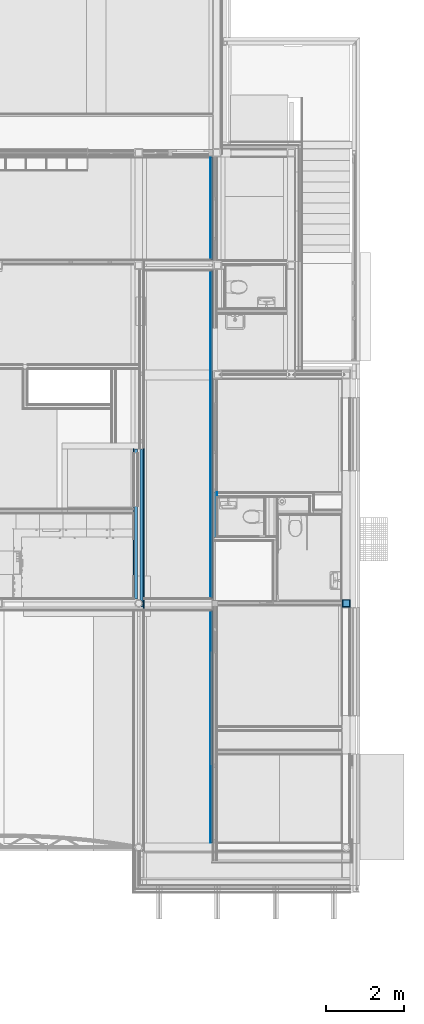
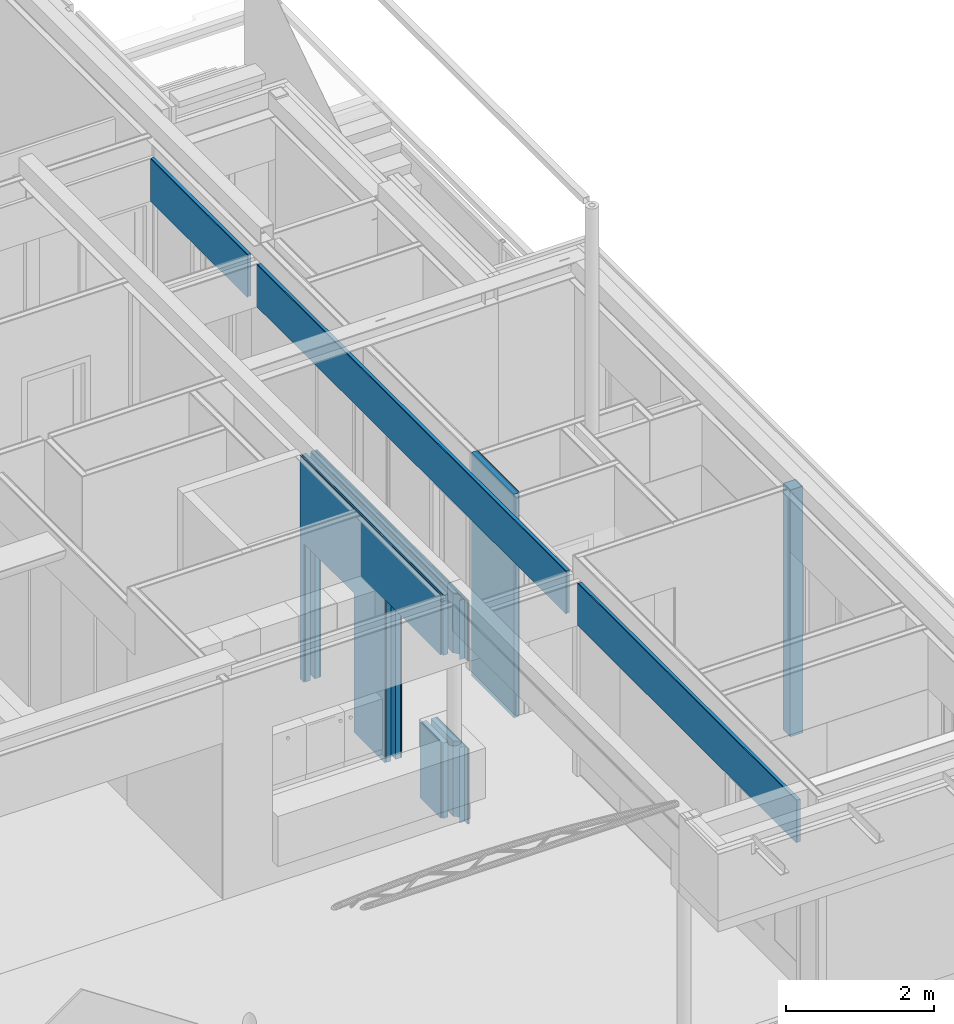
# One storey, part 73 of 165: 11 building element parts, 3 openings, 4 elements without a shape of their own.
"""IFC2X3 building model written with IfcOpenShell, lengths in millimetres."""

from ifc_helpers import new_model, entity, si_unit, converted_unit, derived_unit, money_unit, direction, frame, origin_with_axes, place, context, subcontext, project, spatial, faceted_brep, material, type_object, element, aggregate, save


model = new_model("IFC2X3")

# Units and contexts
model_context = context("Model", 3, precision=0.01, world=origin_with_axes(), true_north=direction((0.0, 1.0)))
body_context = subcontext(model_context, "Body", "Model", "MODEL_VIEW")
ifc_project = project(units=[si_unit("LENGTHUNIT", "METRE", prefix="MILLI"), si_unit("AREAUNIT", "SQUARE_METRE"), si_unit("VOLUMEUNIT", "CUBIC_METRE"), converted_unit("PLANEANGLEUNIT", "DEGREE", entity("IfcPlaneAngleMeasure", 0.0174532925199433), si_unit("PLANEANGLEUNIT", "RADIAN"), dimensions=[0, 0, 0, 0, 0, 0, 0]), money_unit("EUR"), converted_unit("TIMEUNIT", "Year", entity("IfcTimeMeasure", 31556926.0), si_unit("TIMEUNIT", "SECOND"), dimensions=[0, 0, 1, 0, 0, 0, 0]), si_unit("MASSUNIT", "GRAM", prefix="KILO"), si_unit("THERMODYNAMICTEMPERATUREUNIT", "DEGREE_CELSIUS"), si_unit("LUMINOUSINTENSITYUNIT", "LUMEN"), si_unit("ENERGYUNIT", "JOULE", prefix="MEGA"), derived_unit("THERMALCONDUCTANCEUNIT", [(si_unit("POWERUNIT", "WATT"), 1), (si_unit("LENGTHUNIT", "METRE"), -1), (si_unit("THERMODYNAMICTEMPERATUREUNIT", "KELVIN"), -1)]), derived_unit("SPECIFICHEATCAPACITYUNIT", [(si_unit("ENERGYUNIT", "JOULE"), 1), (si_unit("MASSUNIT", "GRAM", prefix="KILO"), -1), (si_unit("THERMODYNAMICTEMPERATUREUNIT", "KELVIN"), -1)]), derived_unit("MASSDENSITYUNIT", [(si_unit("MASSUNIT", "GRAM", prefix="KILO"), 1), (si_unit("VOLUMEUNIT", "CUBIC_METRE"), -1)])], contexts=[model_context])

# Site, building, storey
site_placement = place(None, origin_with_axes())
site = spatial("IfcSite", under=ifc_project, at=site_placement, Name="Site", CompositionType="ELEMENT")
building_placement = place(site_placement, origin_with_axes())
building = spatial("IfcBuilding", under=site, at=building_placement, Name="Naam gebouw", CompositionType="ELEMENT")
storey_placement = place(building_placement, origin_with_axes())
storey = spatial("IfcBuildingStorey", under=building, at=storey_placement, Name="Begane grond", CompositionType="ELEMENT", Elevation=0.0)

# Column, building element parts
column_type = type_object("IfcColumnType", Name="200X200X10 200 x 200", PredefinedType="COLUMN")
column_placement = place(storey_placement, frame((29799.99999999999, 10810.00011055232, -480.0), z_axis=(0.0, 0.0, 1.0), x_axis=(1.0, 0.0, 0.0)))
column = element("IfcColumn", 1, at=column_placement, inside=storey, type_object=column_type, Name="28_Kolom-x", ObjectType="COLUMN")
ifc_material_1 = material(Name="Beton gewapend C")
building_element_part_1_placement = place(column_placement, origin_with_axes())
building_element_part_1 = element("IfcBuildingElementPart", 2, at=building_element_part_1_placement, material=ifc_material_1, Name="Beton gewapend C", context=body_context, shape_type="Brep", body=[
    faceted_brep([(-89.99999999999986, 89.99999999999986, 4063.0), (89.99999999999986, 89.99999999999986, 4063.0), (89.99999999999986, 89.99999999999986, 0.0), (-89.99999999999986, 89.99999999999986, 0.0), (89.99999999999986, -89.99999999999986, 4063.0), (-89.99999999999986, -89.99999999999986, 4063.0), (89.99999999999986, -89.99999999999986, 0.0), (-89.99999999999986, -89.99999999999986, 0.0)], [[[0, 1, 2, 3]], [[4, 1, 0, 5]], [[1, 4, 6, 2]], [[2, 6, 7, 3]], [[5, 0, 3, 7]], [[4, 5, 7, 6]]]),
    faceted_brep([(89.99999999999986, -89.99999999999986, 4074.999999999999), (89.99999999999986, 89.99999999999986, 4074.999999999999), (89.99999999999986, 89.99999999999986, 4079.999999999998), (89.99999999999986, -89.99999999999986, 4079.999999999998), (-89.99999999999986, 89.99999999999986, 4074.999999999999), (-89.99999999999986, -89.99999999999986, 4074.999999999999), (-89.99999999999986, 89.99999999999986, 4079.999999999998), (-89.99999999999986, -89.99999999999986, 4079.999999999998)], [[[0, 1, 2, 3]], [[4, 1, 0, 5]], [[1, 4, 6, 2]], [[2, 6, 7, 3]], [[5, 0, 3, 7]], [[4, 5, 7, 6]]]),
])
ifc_material_2 = material(Name="Metaal - Staal C")
building_element_part_2_placement = place(column_placement, origin_with_axes())
building_element_part_2 = element("IfcBuildingElementPart", 3, at=building_element_part_2_placement, material=ifc_material_2, Name="Metaal - Staal C", context=body_context, shape_type="Brep", body=[
    faceted_brep([(-100.0000000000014, -99.99999999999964, 0.0), (100.0000000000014, -99.99999999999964, 0.0), (100.0000000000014, -99.99999999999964, 4079.999999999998), (-100.0000000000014, -99.99999999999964, 4079.999999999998), (-100.0000000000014, 99.99999999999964, 0.0), (100.0000000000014, 99.99999999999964, 0.0), (-89.99999999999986, -89.99999999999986, 0.0), (89.99999999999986, -89.99999999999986, 0.0), (89.99999999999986, 89.99999999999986, 0.0), (-89.99999999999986, 89.99999999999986, 0.0), (100.0000000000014, 99.99999999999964, 4079.999999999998), (-100.0000000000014, 99.99999999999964, 4079.999999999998), (-89.99999999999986, -89.99999999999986, 4079.999999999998), (-89.99999999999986, 89.99999999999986, 4079.999999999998), (89.99999999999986, 89.99999999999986, 4079.999999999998), (89.99999999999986, -89.99999999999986, 4079.999999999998)], [[[0, 1, 2, 3]], [[0, 4, 5, 1], [6, 7, 8, 9]], [[1, 5, 10, 2]], [[3, 2, 10, 11], [12, 13, 14, 15]], [[4, 0, 3, 11]], [[5, 4, 11, 10]], [[7, 6, 12, 15]], [[8, 7, 15, 14]], [[9, 8, 14, 13]], [[6, 9, 13, 12]]]),
])
aggregate(column, [building_element_part_1, building_element_part_2])

# Proxy, openings, building element parts
building_element_proxy_type_1 = type_object("IfcBuildingElementProxyType", Name="22 Metal stud 270 270", PredefinedType="NOTDEFINED")
proxy_1_placement = place(storey_placement, frame((24499.99903999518, 10619.9988167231, -100.0), z_axis=(0.0, 0.0, 1.0), x_axis=(0.0, 1.0, 0.0)))
proxy_1 = element("IfcBuildingElementProxy", 4, at=proxy_1_placement, inside=storey, type_object=building_element_proxy_type_1, Name="_Wand-x")
opening_1_placement = place(proxy_1_placement, frame((442.5000895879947, 0.0, 1250.0), z_axis=(0.0, 0.0, 1.0), x_axis=(1.0, 0.0, 0.0)))
element("IfcOpeningElement", 5, at=opening_1_placement, cuts=proxy_1, Name="_-", context=body_context, shape_type="Brep", body=[
    faceted_brep([(442.4987957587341, 136.0000000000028, 1450.0), (442.4987957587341, 136.0000000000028, 0.0), (-116.2963858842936, 136.0000000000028, 0.0), (-116.2963858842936, 136.0000000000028, 1450.0), (442.4987957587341, -136.0000000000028, 1450.0), (442.4987957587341, -136.0000000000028, 0.0), (-442.4987957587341, -136.0000000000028, 0.0), (-442.4987957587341, -134.9989251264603, 0.0), (-442.4987957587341, -134.9989251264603, 1450.0), (-442.4987957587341, -136.0000000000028, 1450.0)], [[[0, 1, 2, 3]], [[4, 5, 1, 0]], [[5, 6, 7, 2, 1]], [[2, 7, 8, 3]], [[9, 4, 0, 3, 8]], [[6, 5, 4, 9]], [[6, 9, 8, 7]]]),
])
opening_2_placement = place(proxy_1_placement, frame((3349.49888534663, 0.0, 0.0), z_axis=(0.0, 0.0, 1.0), x_axis=(1.0, 0.0, 0.0)))
element("IfcOpeningElement", 6, at=opening_2_placement, cuts=proxy_1, Name="_-", context=body_context, shape_type="Brep", body=[
    faceted_brep([(680.0000000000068, 136.0000000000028, 2300.0), (680.0000000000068, 136.0000000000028, 0.0), (-680.0000000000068, 136.0000000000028, 0.0), (-680.0000000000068, 136.0000000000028, 2300.0), (680.0000000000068, -136.0000000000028, 2300.0), (680.0000000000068, -136.0000000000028, 0.0), (-680.0000000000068, -136.0000000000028, 0.0), (-680.0000000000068, -136.0000000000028, 2300.0)], [[[0, 1, 2, 3]], [[4, 5, 1, 0]], [[5, 6, 2, 1]], [[6, 7, 3, 2]], [[7, 4, 0, 3]], [[6, 5, 4, 7]]]),
])
opening_3_placement = place(proxy_1_placement, frame((1359.99888534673, 0.0, 0.0), z_axis=(0.0, 0.0, 1.0), x_axis=(1.0, 0.0, 0.0)))
element("IfcOpeningElement", 7, at=opening_3_placement, cuts=proxy_1, Name="_-", context=body_context, shape_type="Brep", body=[
    faceted_brep([(474.9999999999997, 136.0000000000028, 2700.0), (474.9999999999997, 136.0000000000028, 0.0), (-474.9999999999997, 136.0000000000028, 0.0), (-474.9999999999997, 136.0000000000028, 2700.0), (474.9999999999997, -136.0000000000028, 2700.0), (474.9999999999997, -136.0000000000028, 0.0), (-474.9999999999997, -136.0000000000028, 0.0), (-474.9999999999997, -136.0000000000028, 2700.0)], [[[0, 1, 2, 3]], [[4, 5, 1, 0]], [[5, 6, 2, 1]], [[6, 7, 3, 2]], [[7, 4, 0, 3]], [[6, 5, 4, 7]]]),
])
ifc_material_3 = material(Name="Gipsplaat")
building_element_part_3_placement = place(proxy_1_placement, origin_with_axes())
building_element_part_3 = element("IfcBuildingElementPart", 8, at=building_element_part_3_placement, material=ifc_material_3, Name="Gipsplaat", context=body_context, shape_type="Brep", body=[
    faceted_brep([(884.9988853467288, 135.0000193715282, 1250.0), (884.9988853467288, 122.4999999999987, 1250.0), (884.9988853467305, 122.4999999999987, 0.0), (884.9988853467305, 135.0000000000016, 0.0), (324.9999999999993, 122.4999999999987, 1250.0), (325.0000233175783, 135.0000193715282, 1250.0), (324.9999999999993, 122.4999999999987, 0.0), (324.9999999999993, 135.0000000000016, 0.0)], [[[0, 1, 2, 3]], [[4, 1, 0, 5]], [[1, 4, 6, 2]], [[3, 2, 6, 7]], [[5, 0, 3, 7]], [[4, 5, 7, 6]]]),
    faceted_brep([(324.9999999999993, 122.4999999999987, 2700.0), (884.9988853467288, 122.4999999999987, 2700.0), (1834.99888534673, 122.4999999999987, 2700.0), (1834.99888534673, 122.4999999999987, 0.0), (2669.498885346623, 122.4999999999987, 0.0), (2669.498885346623, 122.4999999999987, 2300.0), (4029.498885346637, 122.4999999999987, 2300.0), (4029.498885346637, 122.4999999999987, 0.0), (4139.998885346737, 122.4999999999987, 0.0), (4139.998885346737, 122.4999999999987, 3680.000029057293), (324.9999999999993, 122.4999999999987, 3680.000029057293), (884.9988853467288, 135.0000193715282, 2700.0), (325.0000233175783, 135.0000193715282, 2700.0), (1834.99888534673, 135.0000000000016, 2700.0), (1834.99888534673, 135.0000000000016, 0.0), (2669.498885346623, 135.0000000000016, 0.0), (2669.498885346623, 135.0000000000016, 2300.0), (4029.498885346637, 135.0000000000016, 2300.0), (4029.498885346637, 135.0000000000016, 0.0), (4139.998885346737, 135.0000000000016, 0.0), (4139.998885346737, 135.0000000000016, 3680.000029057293), (324.9999999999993, 135.0000000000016, 3680.000029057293)], [[[0, 1, 2, 3, 4, 5, 6, 7, 8, 9, 10]], [[11, 1, 0, 12]], [[1, 11, 13, 2]], [[3, 2, 13, 14]], [[14, 15, 4, 3]], [[16, 5, 4, 15]], [[17, 6, 5, 16]], [[18, 7, 6, 17]], [[8, 7, 18, 19]], [[9, 8, 19, 20]], [[9, 20, 21, 10]], [[12, 0, 10, 21]], [[11, 12, 21, 20, 19, 18, 17, 16, 15, 14, 13]]]),
    faceted_brep([(324.9999999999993, 122.4999999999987, 3695.000029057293), (4139.998885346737, 122.4999999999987, 3695.000029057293), (4139.998885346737, 122.4999999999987, 3700.0), (324.9999999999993, 122.4999999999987, 3700.0), (4139.998885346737, 135.0000000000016, 3695.000029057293), (324.9999999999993, 135.0000000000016, 3695.000029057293), (4139.998885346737, 135.0000000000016, 3700.0), (324.9999999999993, 135.0000000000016, 3700.0)], [[[0, 1, 2, 3]], [[4, 1, 0, 5]], [[1, 4, 6, 2]], [[3, 2, 6, 7]], [[5, 0, 3, 7]], [[4, 5, 7, 6]]]),
])
ifc_material_4 = material(Name="ALG - LICHTE SCHEIDINGSWAND")
building_element_part_4_placement = place(proxy_1_placement, origin_with_axes())
building_element_part_4 = element("IfcBuildingElementPart", 9, at=building_element_part_4_placement, material=ifc_material_4, Name="ALG - LICHTE SCHEIDINGSWAND", context=body_context, shape_type="Brep", body=[
    faceted_brep([(884.9988853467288, 109.9999999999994, 1250.0), (884.9988853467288, 35.00000000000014, 1250.0), (884.9988853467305, 35.00000000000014, 0.0), (884.9988853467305, 109.9999999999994, 0.0), (300.0000000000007, 35.00000000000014, 1250.0), (300.0000000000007, 109.9999999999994, 1250.0), (300.0000000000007, 35.00000000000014, 0.0), (300.0000000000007, 109.9999999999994, 0.0)], [[[0, 1, 2, 3]], [[4, 1, 0, 5]], [[1, 4, 6, 2]], [[3, 2, 6, 7]], [[5, 0, 3, 7]], [[4, 5, 7, 6]]]),
    faceted_brep([(300.0000000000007, 35.00000000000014, 2700.0), (884.9988853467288, 35.00000000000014, 2700.0), (1834.99888534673, 35.00000000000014, 2700.0), (1834.99888534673, 35.00000000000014, 0.0), (2669.498885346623, 35.00000000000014, 0.0), (2669.498885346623, 35.00000000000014, 2300.0), (4029.498885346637, 35.00000000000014, 2300.0), (4029.498885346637, 35.00000000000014, 0.0), (4139.998885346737, 35.00000000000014, 0.0), (4139.998885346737, 35.00000000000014, 3680.000029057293), (300.0000000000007, 35.00000000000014, 3680.000029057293), (884.9988853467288, 109.9999999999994, 2700.0), (300.0000000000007, 109.9999999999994, 2700.0), (1834.99888534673, 109.9999999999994, 2700.0), (1834.99888534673, 109.9999999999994, 0.0), (2669.498885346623, 109.9999999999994, 0.0), (2669.498885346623, 109.9999999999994, 2300.0), (4029.498885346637, 109.9999999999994, 2300.0), (4029.498885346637, 109.9999999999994, 0.0), (4139.998885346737, 109.9999999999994, 0.0), (4139.998885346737, 109.9999999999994, 3680.000029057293), (300.0000000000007, 109.9999999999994, 3680.000029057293)], [[[0, 1, 2, 3, 4, 5, 6, 7, 8, 9, 10]], [[11, 1, 0, 12]], [[1, 11, 13, 2]], [[3, 2, 13, 14]], [[14, 15, 4, 3]], [[16, 5, 4, 15]], [[17, 6, 5, 16]], [[18, 7, 6, 17]], [[8, 7, 18, 19]], [[9, 8, 19, 20]], [[9, 20, 21, 10]], [[12, 0, 10, 21]], [[11, 12, 21, 20, 19, 18, 17, 16, 15, 14, 13]]]),
    faceted_brep([(300.0000000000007, 100.9999999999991, 3700.0), (4139.998885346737, 100.9999999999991, 3700.0), (4139.998885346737, 109.9999999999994, 3700.0), (300.0000000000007, 109.9999999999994, 3700.0), (4139.998885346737, 100.9999999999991, 3695.000029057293), (300.0000000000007, 100.9999999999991, 3695.000029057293), (4139.998885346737, 109.9999999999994, 3695.000029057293), (300.0000000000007, 109.9999999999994, 3695.000029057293)], [[[0, 1, 2, 3]], [[4, 1, 0, 5]], [[4, 6, 2, 1]], [[6, 7, 3, 2]], [[5, 0, 3, 7]], [[6, 4, 5, 7]]]),
    faceted_brep([(300.0000000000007, 35.00000000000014, 3695.000029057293), (4139.998885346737, 35.00000000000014, 3695.000029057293), (4139.998885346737, 35.00000000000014, 3700.0), (300.0000000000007, 35.00000000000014, 3700.0), (4139.998885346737, 94.99999999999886, 3695.000029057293), (300.0000000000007, 94.99999999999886, 3695.000029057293), (4139.998885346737, 94.99999999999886, 3700.0), (300.0000000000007, 94.99999999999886, 3700.0)], [[[0, 1, 2, 3]], [[4, 1, 0, 5]], [[4, 6, 2, 1]], [[6, 7, 3, 2]], [[5, 0, 3, 7]], [[7, 6, 4, 5]]]),
])
building_element_part_5_placement = place(proxy_1_placement, origin_with_axes())
building_element_part_5 = element("IfcBuildingElementPart", 10, at=building_element_part_5_placement, material=ifc_material_4, Name="ALG - LICHTE SCHEIDINGSWAND", context=body_context, shape_type="Brep", body=[
    faceted_brep([(884.9988853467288, -35.00000000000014, 1250.0), (884.9988853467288, -109.9999999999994, 1250.0), (884.9988853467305, -109.9999999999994, 0.0), (884.9988853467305, -35.00000000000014, 0.0), (99.99999999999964, -109.9999999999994, 1250.0), (279.6356835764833, -35.00000000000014, 1250.0), (278.0991525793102, -40.23294400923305, 1250.0), (263.195640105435, -63.42326208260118, 1250.0), (242.3623569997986, -81.47540465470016, 1250.0), (217.2870919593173, -92.92689449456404, 1250.0), (190.0012938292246, -96.84999999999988, 1250.0), (162.7154956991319, -92.92689449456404, 1250.0), (137.6402306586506, -81.47540465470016, 1250.0), (116.8069475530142, -63.42326208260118, 1250.0), (106.1390930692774, -46.82363113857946, 1250.0), (100.0003657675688, -51.92351719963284, 1250.0), (99.99999999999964, -109.9999999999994, 0.0), (242.3623569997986, -81.47540465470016, 0.0), (263.195640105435, -63.42326208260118, 0.0), (278.0991525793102, -40.23294400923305, 0.0), (279.6356835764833, -35.00000000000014, 0.0), (99.99999999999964, -35.00000000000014, 0.0), (100.3669040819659, -35.00000000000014, 0.0), (101.903435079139, -40.23294400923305, 0.0), (116.8069475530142, -63.42326208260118, 0.0), (137.6402306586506, -81.47540465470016, 0.0), (162.7154956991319, -92.92689449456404, 0.0), (190.0012938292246, -96.84999999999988, 0.0), (217.2870919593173, -92.92689449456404, 0.0), (101.903435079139, -40.23294400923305, 1250.0), (100.3669040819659, -35.00000000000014, 1250.0), (99.99999999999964, -35.00000000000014, 1250.0)], [[[0, 1, 2, 3]], [[4, 1, 0, 5, 6, 7, 8, 9, 10, 11, 12, 13, 14, 15]], [[1, 4, 16, 2]], [[17, 18, 19, 20, 3, 2, 16, 21, 22, 23, 24, 25, 26, 27, 28]], [[5, 0, 3, 20]], [[6, 5, 20, 19]], [[7, 6, 19, 18]], [[8, 7, 18, 17]], [[9, 8, 17, 28]], [[10, 9, 28, 27]], [[11, 10, 27, 26]], [[12, 11, 26, 25]], [[13, 12, 25, 24]], [[14, 13, 24, 23, 29]], [[15, 14, 29, 30, 31]], [[4, 15, 31, 21, 16]], [[31, 30, 22, 21]], [[30, 29, 23, 22]]]),
    faceted_brep([(99.99999999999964, -109.9999999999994, 2700.0), (884.9988853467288, -109.9999999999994, 2700.0), (1834.99888534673, -109.9999999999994, 2700.0), (1834.99888534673, -109.9999999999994, 0.0), (2669.498885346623, -109.9999999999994, 0.0), (2669.498885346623, -109.9999999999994, 2300.0), (4029.498885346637, -109.9999999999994, 2300.0), (4029.498885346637, -109.9999999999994, 0.0), (4139.998885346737, -109.9999999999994, 0.0), (4139.998885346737, -109.9999999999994, 3680.000029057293), (99.99999999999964, -109.9999999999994, 3680.0), (884.9988853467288, -35.00000000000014, 2700.0), (100.0003657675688, -51.92351719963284, 2700.0), (106.1390930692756, -46.82363113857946, 2700.0), (116.8069475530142, -63.42326208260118, 2700.0), (137.6402306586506, -81.47540465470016, 2700.0), (162.7154956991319, -92.92689449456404, 2700.0), (190.0012938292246, -96.84999999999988, 2700.0), (217.2870919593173, -92.92689449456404, 2700.0), (242.3623569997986, -81.47540465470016, 2700.0), (263.195640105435, -63.42326208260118, 2700.0), (278.0991525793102, -40.23294400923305, 2700.0), (279.6356835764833, -35.00000000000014, 2700.0), (1834.99888534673, -35.00000000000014, 2700.0), (1834.99888534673, -35.00000000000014, 0.0), (2669.498885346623, -35.00000000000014, 0.0), (2669.498885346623, -35.00000000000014, 2300.0), (4029.498885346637, -35.00000000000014, 2300.0), (4029.498885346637, -35.00000000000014, 0.0), (4139.998885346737, -35.00000000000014, 0.0), (4139.998885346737, -35.00000000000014, 3680.000029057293), (99.99999999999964, -35.00000000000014, 3680.0), (279.6356835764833, -35.00000000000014, 3680.000001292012), (278.0991525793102, -40.23294400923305, 3680.000029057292), (263.195640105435, -63.42326208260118, 3680.000029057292), (242.3623569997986, -81.47540465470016, 3680.000029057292), (217.2870919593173, -92.92689449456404, 3680.000029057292), (190.0012938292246, -96.84999999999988, 3680.000029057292), (162.7154956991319, -92.92689449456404, 3680.000029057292), (137.6402306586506, -81.47540465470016, 3680.000029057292), (116.8069475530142, -63.42326208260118, 3680.000029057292), (101.903435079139, -40.23294400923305, 3680.000029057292), (100.3669040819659, -35.00000000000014, 3680.000000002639), (99.99999999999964, -35.00000000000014, 2700.0), (100.3669040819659, -35.00000000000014, 2700.0), (101.903435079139, -40.23294400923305, 2700.0)], [[[0, 1, 2, 3, 4, 5, 6, 7, 8, 9, 10]], [[11, 1, 0, 12, 13, 14, 15, 16, 17, 18, 19, 20, 21, 22]], [[1, 11, 23, 2]], [[3, 2, 23, 24]], [[24, 25, 4, 3]], [[26, 5, 4, 25]], [[27, 6, 5, 26]], [[28, 7, 6, 27]], [[8, 7, 28, 29]], [[30, 9, 8, 29]], [[31, 10, 9, 30, 32, 33, 34, 35, 36, 37, 38, 39, 40, 41, 42]], [[12, 0, 10, 31, 43]], [[13, 12, 43, 44, 45]], [[14, 13, 45, 41, 40]], [[15, 14, 40, 39]], [[16, 15, 39, 38]], [[17, 16, 38, 37]], [[18, 17, 37, 36]], [[19, 18, 36, 35]], [[20, 19, 35, 34]], [[21, 20, 34, 33]], [[22, 21, 33, 32]], [[11, 22, 32, 30, 29, 28, 27, 26, 25, 24, 23]], [[45, 44, 42, 41]], [[44, 43, 31, 42]]]),
    faceted_brep([(177.1342612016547, -95.00000000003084, 3695.00000055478), (177.1342612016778, -95.00000000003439, 3699.999999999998), (99.99999999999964, -95.00000000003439, 3700.0), (99.99999999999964, -95.00000000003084, 3695.0), (162.7154956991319, -92.92689449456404, 3699.999999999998), (162.7154956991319, -92.92689449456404, 3695.000029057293), (101.903435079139, -40.23294400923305, 3699.999999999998), (100.3669040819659, -35.00000000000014, 3699.999999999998), (99.99999999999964, -35.00000000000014, 3700.0), (137.6402306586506, -81.47540465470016, 3699.999999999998), (116.8069475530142, -63.42326208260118, 3699.999999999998), (99.99999999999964, -35.00000000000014, 3695.0), (100.3669040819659, -35.00000000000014, 3695.000000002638), (101.903435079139, -40.23294400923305, 3695.000029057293), (116.8069475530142, -63.42326208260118, 3695.000029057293), (137.6402306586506, -81.47540465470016, 3695.000029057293)], [[[0, 1, 2, 3]], [[4, 1, 0, 5]], [[6, 7, 8, 2, 1, 4, 9, 10]], [[11, 3, 2, 8]], [[5, 0, 3, 11, 12, 13, 14, 15]], [[9, 4, 5, 15]], [[7, 6, 13, 12]], [[7, 12, 11, 8]], [[10, 9, 15, 14]], [[6, 10, 14, 13]]]),
    faceted_brep([(242.3623569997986, -81.47540465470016, 3699.999999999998), (217.2870919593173, -92.92689449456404, 3699.999999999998), (202.8683264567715, -95.00000000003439, 3699.999999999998), (4139.998885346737, -95.00000000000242, 3700.0), (4139.998885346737, -35.00000000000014, 3700.0), (279.6356835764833, -35.00000000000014, 3699.999999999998), (278.0991525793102, -40.23294400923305, 3699.999999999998), (263.195640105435, -63.42326208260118, 3699.999999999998), (242.3623569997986, -81.47540465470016, 3695.000029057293), (217.2870919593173, -92.92689449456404, 3695.000029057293), (202.8683264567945, -95.00000000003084, 3695.00000073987), (4139.998885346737, -95.00000000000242, 3695.000029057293), (4139.998885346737, -35.00000000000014, 3695.000029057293), (279.6356835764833, -35.00000000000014, 3695.000001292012), (278.0991525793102, -40.23294400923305, 3695.000029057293), (263.195640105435, -63.42326208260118, 3695.000029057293)], [[[0, 1, 2, 3, 4, 5, 6, 7]], [[1, 0, 8, 9]], [[10, 2, 1, 9]], [[2, 10, 11, 3]], [[3, 11, 12, 4]], [[13, 5, 4, 12]], [[6, 5, 13, 14]], [[7, 6, 14, 15]], [[0, 7, 15, 8]], [[14, 13, 12, 11, 10, 9, 8, 15]]]),
    faceted_brep([(4139.998885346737, -109.9999999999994, 3695.000029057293), (4139.998885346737, -109.9999999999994, 3700.0), (99.99999999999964, -109.9999999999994, 3700.0), (99.99999999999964, -109.9999999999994, 3695.0), (4139.998885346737, -101.0000000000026, 3695.000029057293), (4139.998885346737, -101.0000000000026, 3700.0), (99.99999999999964, -101.0000000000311, 3700.0), (99.99999999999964, -101.0000000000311, 3695.0)], [[[0, 1, 2, 3]], [[4, 5, 1, 0]], [[5, 6, 2, 1]], [[7, 3, 2, 6]], [[4, 0, 3, 7]], [[5, 4, 7, 6]]]),
])
building_element_part_6_placement = place(proxy_1_placement, origin_with_axes())
building_element_part_6 = element("IfcBuildingElementPart", 11, at=building_element_part_6_placement, material=ifc_material_3, Name="Gipsplaat", context=body_context, shape_type="Brep", body=[
    faceted_brep([(884.9988853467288, -122.4999999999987, 1250.0), (884.9988853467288, -135.0000000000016, 1250.0), (884.9988853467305, -135.0000000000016, 0.0), (884.9988853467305, -122.4999999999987, 0.0), (12.49999999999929, -135.0000000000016, 1250.0), (15.04680016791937, -122.5006065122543, 1250.0), (12.50050801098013, -124.6159961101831, 1250.0), (12.49999999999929, -135.0000000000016, 0.0), (12.49999999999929, -122.4999999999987, 0.0), (12.49999999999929, -122.4999999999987, 1250.0)], [[[0, 1, 2, 3]], [[4, 1, 0, 5, 6]], [[1, 4, 7, 2]], [[3, 2, 7, 8]], [[5, 0, 3, 8, 9]], [[6, 5, 9]], [[4, 6, 9, 8, 7]]]),
    faceted_brep([(12.49999999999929, -135.0000000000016, 2700.0), (884.9988853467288, -135.0000000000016, 2700.0), (1834.99888534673, -135.0000000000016, 2700.0), (1834.99888534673, -135.0000000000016, 0.0), (2669.498885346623, -135.0000000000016, 0.0), (2669.498885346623, -135.0000000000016, 2300.0), (4029.498885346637, -135.0000000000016, 2300.0), (4029.498885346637, -135.0000000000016, 0.0), (4139.998885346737, -135.0000000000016, 0.0), (4139.998885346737, -135.0000000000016, 3680.000029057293), (12.49999999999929, -135.0000000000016, 3680.0), (884.9988853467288, -122.4999999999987, 2700.0), (12.50050801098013, -124.6159961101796, 2700.0), (15.04680016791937, -122.5006065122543, 2700.0), (1834.99888534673, -122.4999999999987, 2700.0), (1834.99888534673, -122.4999999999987, 0.0), (2669.498885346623, -122.4999999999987, 0.0), (2669.498885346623, -122.4999999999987, 2300.0), (4029.498885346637, -122.4999999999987, 2300.0), (4029.498885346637, -122.4999999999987, 0.0), (4139.998885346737, -122.4999999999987, 0.0), (4139.998885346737, -122.4999999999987, 3680.000029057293), (12.49999999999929, -122.4999999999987, 3680.0), (12.49999999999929, -122.4999999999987, 2700.0)], [[[0, 1, 2, 3, 4, 5, 6, 7, 8, 9, 10]], [[11, 1, 0, 12, 13]], [[1, 11, 14, 2]], [[3, 2, 14, 15]], [[15, 16, 4, 3]], [[17, 5, 4, 16]], [[18, 6, 5, 17]], [[19, 7, 6, 18]], [[8, 7, 19, 20]], [[9, 8, 20, 21]], [[21, 22, 10, 9]], [[12, 0, 10, 22, 23]], [[13, 12, 23]], [[11, 13, 23, 22, 21, 20, 19, 18, 17, 16, 15, 14]]]),
    faceted_brep([(4139.998885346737, -135.0000000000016, 3695.000029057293), (4139.998885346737, -135.0000000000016, 3700.0), (12.49999999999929, -135.0000000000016, 3700.0), (12.49999999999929, -135.0000000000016, 3695.0), (4139.998885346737, -122.4999999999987, 3695.000029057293), (4139.998885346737, -122.4999999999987, 3700.0), (12.49999999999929, -122.4999999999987, 3700.0), (12.49999999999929, -122.4999999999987, 3695.0)], [[[0, 1, 2, 3]], [[0, 4, 5, 1]], [[2, 1, 5, 6]], [[7, 3, 2, 6]], [[4, 0, 3, 7]], [[4, 7, 6, 5]]]),
])
building_element_part_7_placement = place(proxy_1_placement, origin_with_axes())
building_element_part_7 = element("IfcBuildingElementPart", 12, at=building_element_part_7_placement, material=ifc_material_3, Name="Gipsplaat", context=body_context, shape_type="Brep", body=[
    faceted_brep([(884.9988853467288, -109.9999999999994, 1250.0), (884.9988853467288, -122.4999999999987, 1250.0), (884.9988853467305, -122.4999999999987, 0.0), (884.9988853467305, -109.9999999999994, 0.0), (25.00000000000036, -122.4999999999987, 1250.0), (30.0930720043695, -110.0005770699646, 1250.0), (25.00048769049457, -114.2313562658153, 1250.0), (25.00000000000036, -122.4999999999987, 0.0), (25.00000000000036, -109.9999999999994, 0.0), (25.00000000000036, -109.9999999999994, 1250.0)], [[[0, 1, 2, 3]], [[4, 1, 0, 5, 6]], [[1, 4, 7, 2]], [[3, 2, 7, 8]], [[5, 0, 3, 8, 9]], [[6, 5, 9]], [[4, 6, 9, 8, 7]]]),
    faceted_brep([(25.00000000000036, -122.4999999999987, 2700.0), (884.9988853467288, -122.4999999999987, 2700.0), (1834.99888534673, -122.4999999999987, 2700.0), (1834.99888534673, -122.4999999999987, 0.0), (2669.498885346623, -122.4999999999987, 0.0), (2669.498885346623, -122.4999999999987, 2300.0), (4029.498885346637, -122.4999999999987, 2300.0), (4029.498885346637, -122.4999999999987, 0.0), (4139.998885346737, -122.4999999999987, 0.0), (4139.998885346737, -122.4999999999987, 3680.000029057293), (25.00000000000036, -122.4999999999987, 3680.0), (884.9988853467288, -109.9999999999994, 2700.0), (25.00048769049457, -114.2313562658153, 2700.0), (30.09307200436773, -110.0005770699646, 2700.0), (1834.99888534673, -109.9999999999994, 2700.0), (1834.99888534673, -109.9999999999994, 0.0), (2669.498885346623, -109.9999999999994, 0.0), (2669.498885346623, -109.9999999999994, 2300.0), (4029.498885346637, -109.9999999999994, 2300.0), (4029.498885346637, -109.9999999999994, 0.0), (4139.998885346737, -109.9999999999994, 0.0), (4139.998885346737, -109.9999999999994, 3680.000029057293), (25.00000000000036, -109.9999999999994, 3680.0), (25.00000000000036, -109.9999999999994, 2700.0)], [[[0, 1, 2, 3, 4, 5, 6, 7, 8, 9, 10]], [[11, 1, 0, 12, 13]], [[1, 11, 14, 2]], [[3, 2, 14, 15]], [[15, 16, 4, 3]], [[17, 5, 4, 16]], [[18, 6, 5, 17]], [[19, 7, 6, 18]], [[8, 7, 19, 20]], [[9, 8, 20, 21]], [[21, 22, 10, 9]], [[12, 0, 10, 22, 23]], [[13, 12, 23]], [[11, 13, 23, 22, 21, 20, 19, 18, 17, 16, 15, 14]]]),
    faceted_brep([(4139.998885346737, -122.4999999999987, 3695.000029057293), (4139.998885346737, -122.4999999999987, 3700.0), (25.00000000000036, -122.4999999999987, 3700.0), (25.00000000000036, -122.4999999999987, 3695.0), (4139.998885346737, -109.9999999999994, 3695.000029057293), (4139.998885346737, -109.9999999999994, 3700.0), (25.00000000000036, -109.9999999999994, 3700.0), (25.00000000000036, -109.9999999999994, 3695.0)], [[[0, 1, 2, 3]], [[0, 4, 5, 1]], [[2, 1, 5, 6]], [[7, 3, 2, 6]], [[4, 0, 3, 7]], [[4, 7, 6, 5]]]),
])
aggregate(proxy_1, [building_element_part_3, building_element_part_4, building_element_part_5, building_element_part_6, building_element_part_7])

# Proxy, building element parts
building_element_proxy_type_2 = type_object("IfcBuildingElementProxyType", Name="22 Metal stud 62.5 plafond 63", PredefinedType="NOTDEFINED")
proxy_2_placement = place(storey_placement, frame((26323.50000000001, 22199.97621406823, 2600.0), z_axis=(0.0, 0.0, 1.0), x_axis=(0.0, -1.0, 0.0)))
proxy_2 = element("IfcBuildingElementProxy", 13, at=proxy_2_placement, inside=storey, type_object=building_element_proxy_type_2, Name="_Wand-x")
building_element_part_8_placement = place(proxy_2_placement, origin_with_axes())
building_element_part_8 = element("IfcBuildingElementPart", 14, at=building_element_part_8_placement, material=ifc_material_3, Name="Gipsplaat", context=body_context, shape_type="Brep", body=[
    faceted_brep([(2627.476402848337, 0.0, 0.0), (0.0, 0.0, 0.0), (0.0, 12.49999999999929, 0.0), (2627.476402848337, 12.49999999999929, 0.0), (2627.476402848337, 0.0, 700.0000000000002), (0.0, 0.0, 700.0000000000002), (0.0, 12.49999999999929, 700.0000000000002), (2627.476402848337, 12.49999999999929, 700.0000000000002)], [[[0, 1, 2, 3]], [[4, 5, 1, 0]], [[2, 1, 5, 6]], [[3, 2, 6, 7]], [[3, 7, 4, 0]], [[7, 6, 5, 4]]]),
    faceted_brep([(11267.47610351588, 0.0, 0.0), (2872.476402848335, 0.0, 0.0), (2872.476402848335, 12.49999999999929, 0.0), (11267.47610351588, 12.49999999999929, 0.0), (11267.47610351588, 0.0, 700.0000000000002), (2872.476402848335, 0.0, 700.0000000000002), (2872.476402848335, 12.49999999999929, 700.0000000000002), (11267.47610351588, 12.49999999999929, 700.0000000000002)], [[[0, 1, 2, 3]], [[4, 5, 1, 0]], [[2, 1, 5, 6]], [[3, 2, 6, 7]], [[3, 7, 4, 0]], [[7, 6, 5, 4]]]),
    faceted_brep([(17505.97621406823, 12.49999999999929, 0.0), (17505.97621406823, 0.0, 0.0), (11567.47610351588, 0.0, 0.0), (11567.47610351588, 12.49999999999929, 0.0), (17505.97621406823, 12.49999999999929, 700.0000000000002), (17505.97621406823, 0.0, 700.0000000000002), (11567.47610351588, 0.0, 700.0000000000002), (11567.47610351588, 12.49999999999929, 700.0000000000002)], [[[0, 1, 2, 3]], [[0, 4, 5, 1]], [[1, 5, 6, 2]], [[3, 2, 6, 7]], [[4, 0, 3, 7]], [[5, 4, 7, 6]]]),
])
building_element_part_9_placement = place(proxy_2_placement, origin_with_axes())
building_element_part_9 = element("IfcBuildingElementPart", 15, at=building_element_part_9_placement, material=ifc_material_4, Name="ALG - LICHTE SCHEIDINGSWAND", context=body_context, shape_type="Brep", body=[
    faceted_brep([(2614.976402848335, 12.49999999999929, 0.0), (-12.49999999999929, 12.49999999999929, 0.0), (-12.49999999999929, 62.5, 0.0), (2614.976402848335, 62.5, 0.0), (2614.976402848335, 12.49999999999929, 700.0000000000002), (-12.49999999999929, 12.49999999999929, 700.0000000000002), (-12.49999999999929, 62.5, 700.0000000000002), (2614.976402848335, 62.5, 700.0000000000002)], [[[0, 1, 2, 3]], [[4, 5, 1, 0]], [[2, 1, 5, 6]], [[3, 2, 6, 7]], [[3, 7, 4, 0]], [[7, 6, 5, 4]]]),
    faceted_brep([(11254.97610351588, 12.49999999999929, 0.0), (2884.976402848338, 12.49999999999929, 0.0), (2884.976402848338, 62.5, 0.0), (11254.97610351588, 62.49999999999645, 0.0), (11254.97610351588, 12.49999999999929, 700.0000000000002), (2884.976402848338, 12.49999999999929, 700.0000000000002), (2884.976402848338, 62.5, 700.0000000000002), (11254.97610351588, 62.49999999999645, 700.0000000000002)], [[[0, 1, 2, 3]], [[4, 5, 1, 0]], [[2, 1, 5, 6]], [[3, 2, 6, 7]], [[3, 7, 4, 0]], [[7, 6, 5, 4]]]),
    faceted_brep([(17505.97621406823, 62.49999999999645, 0.0), (17505.97621406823, 12.49999999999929, 0.0), (11579.97610351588, 12.49999999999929, 0.0), (11579.97610351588, 62.49999999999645, 0.0), (17505.97621406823, 62.49999999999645, 700.0000000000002), (17505.97621406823, 12.49999999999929, 700.0000000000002), (11579.97610351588, 12.49999999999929, 700.0000000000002), (11579.97610351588, 62.49999999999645, 700.0000000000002)], [[[0, 1, 2, 3]], [[0, 4, 5, 1]], [[1, 5, 6, 2]], [[3, 2, 6, 7]], [[4, 0, 3, 7]], [[5, 4, 7, 6]]]),
])
aggregate(proxy_2, [building_element_part_8, building_element_part_9])

building_element_proxy_type_3 = type_object("IfcBuildingElementProxyType", Name="22 Metal stud 125 oregon pine 125", PredefinedType="NOTDEFINED")
proxy_3_placement = place(storey_placement, frame((26386.00000000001, 13649.99778166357, -100.0), z_axis=(0.0, 0.0, 1.0), x_axis=(0.0, -1.0, 0.0)))
proxy_3 = element("IfcBuildingElementProxy", 16, at=proxy_3_placement, inside=storey, type_object=building_element_proxy_type_3, Name="_Wand-x")
building_element_part_10_placement = place(proxy_3_placement, origin_with_axes())
building_element_part_10 = element("IfcBuildingElementPart", 17, at=building_element_part_10_placement, material=ifc_material_3, Name="Gipsplaat", context=body_context, shape_type="Brep", body=[
    faceted_brep([(1124.999500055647, 112.5000000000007, 0.0), (0.0, 112.5000000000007, 0.0), (0.0, 125.0, 0.0), (1124.999491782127, 125.0, 0.0), (1124.999500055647, 112.5000000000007, 3700.0), (0.0, 112.5000000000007, 3700.0), (0.0, 125.0, 3700.0), (1124.999491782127, 125.0, 3700.0)], [[[0, 1, 2, 3]], [[4, 5, 1, 0]], [[2, 1, 5, 6]], [[3, 2, 6, 7]], [[3, 7, 4, 0]], [[7, 6, 5, 4]]]),
])
building_element_part_11_placement = place(proxy_3_placement, origin_with_axes())
building_element_part_11 = element("IfcBuildingElementPart", 18, at=building_element_part_11_placement, material=ifc_material_4, Name="ALG - LICHTE SCHEIDINGSWAND", context=body_context, shape_type="Brep", body=[
    faceted_brep([(1149.999557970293, 24.99999999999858, 0.0), (0.0, 24.99999999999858, 0.0), (0.0, 100.0000000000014, 0.0), (1149.999508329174, 100.0000000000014, 0.0), (1149.999557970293, 24.99999999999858, 3700.0), (0.0, 24.99999999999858, 3700.0), (0.0, 100.0000000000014, 3700.0), (1149.999508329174, 100.0000000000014, 3700.0)], [[[0, 1, 2, 3]], [[4, 5, 1, 0]], [[2, 1, 5, 6]], [[3, 2, 6, 7]], [[3, 7, 4, 0]], [[7, 6, 5, 4]]]),
])
aggregate(proxy_3, [building_element_part_10, building_element_part_11])

save(model, "model.ifc")
